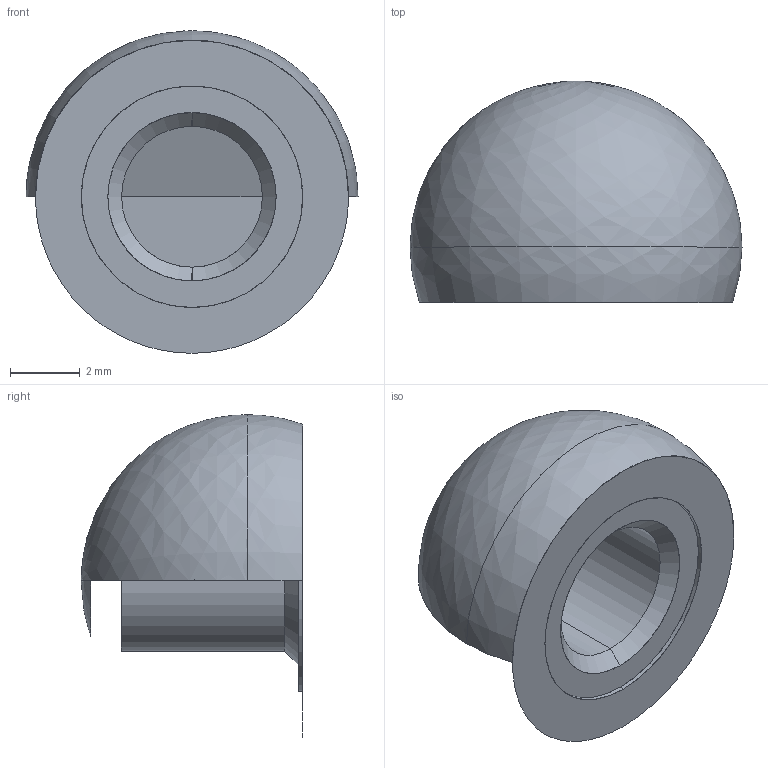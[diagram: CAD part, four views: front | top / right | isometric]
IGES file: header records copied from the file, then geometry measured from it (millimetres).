
Start section: SolidWorks IGES file using analytic representation for surfaces
Global section: file name: D:\Solid_parts\MECHeDESIGN\Bal-Tec\Catalog 105-A\Distribution\IGES\375-TBR-T.IGS; native system: SolidWorks 2005 by SolidWorks Corporation; preprocessor: SolidWorks 2005 by SolidWorks Corporation; author: rvillegas; date: 061205.184212; units: inch
Bounding box: 9.53 x 6.35 x 9.25 mm (x, y, z)
Surface area: 298 mm2 (no closed solid volume)
Topology: 0 solids, 0 shells, 11 faces, 192 edges, 191 vertices
Faces by surface type: revolution 8, bspline 3
